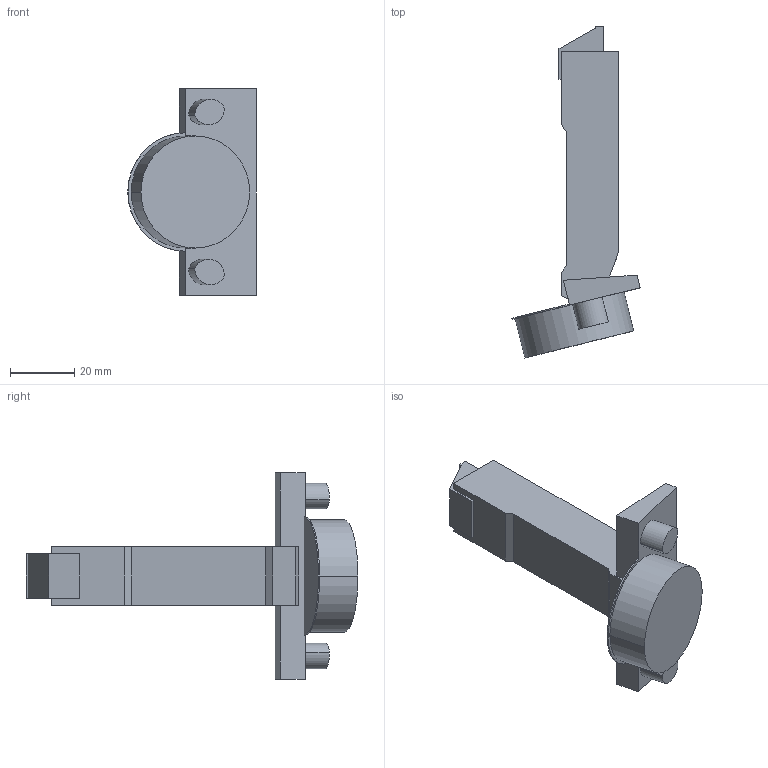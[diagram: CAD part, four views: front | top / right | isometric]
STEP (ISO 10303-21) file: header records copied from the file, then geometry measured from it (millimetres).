
FILE_DESCRIPTION (( 'STEP AP214' ), '1' );
FILE_NAME ('Scharnier TS Impresso 120°_-15° HS_BB, aufliegend - Neu -.step', '2019-09-17T09:44:52', ( '' ), ( '' ), 'SwSTEP 2.0', 'SolidWorks 2019', '' );
FILE_SCHEMA (( 'AUTOMOTIVE_DESIGN' ));
Length unit declared in the file: millimetre
Products named in the file (1): Scharnier TS Impresso 120°_-15° HS_BB, aufliegend - Neu -
Bounding box: 40.12 x 103.72 x 64.5 mm (x, y, z)
Volume: 44713.1 mm3; surface area: 12393 mm2
Topology: 1 solids, 1 shells, 50 faces, 126 edges, 84 vertices
Faces by surface type: plane 35, cylinder 15
Entity records: 1534 total; most frequent: CARTESIAN_POINT 261, DIRECTION 258, ORIENTED_EDGE 252, EDGE_CURVE 126, LINE 96, VECTOR 96, VERTEX_POINT 84, AXIS2_PLACEMENT_3D 81
